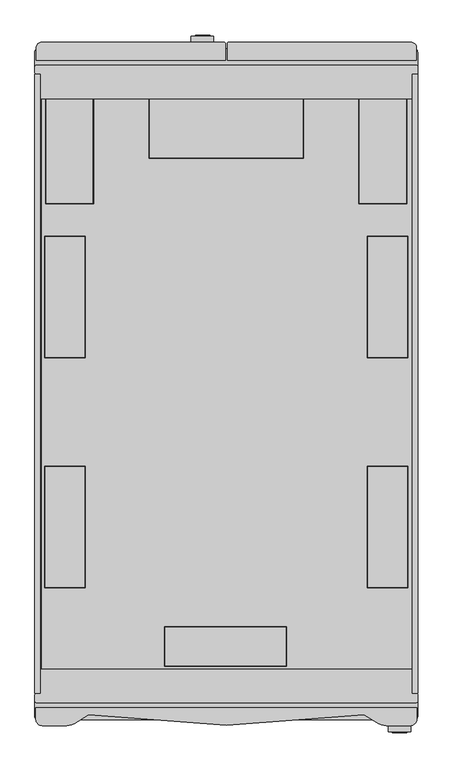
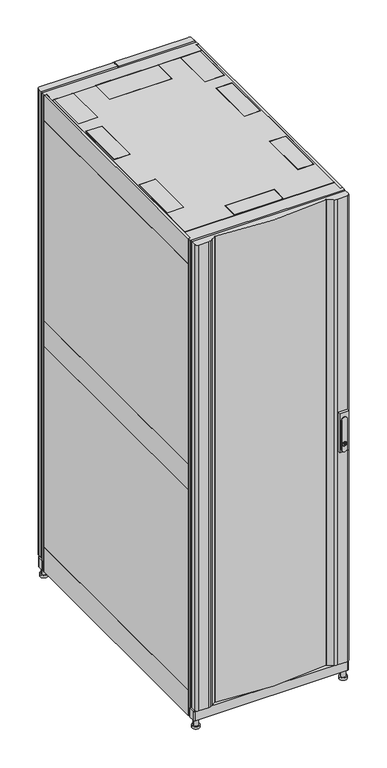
"""IFC4 building model written with IfcOpenShell, lengths in millimetres: proxy geometry, Symmetra_PX_Battery_96_100_160kW_Schneider_Electric_BIM_Model : SYCFXR9-9 - Symmetra PX Battery frame with 9 Battery Modules."""

from ifc_helpers import new_model, si_unit, point, frame, frame_2d, origin, place, context, project, spatial, polyline, circle_curve, trimmed, segment, composite_curve, outline, extrude, source, transform, mapped, element, save
from ifc_brep_helpers import plane_surface, cylinder_surface, revolved_surface, advanced_brep


def electrical_equipment_d7194751(model_context):
    return source(origin(), model_context, "Body", "SolidModel", [
        extrude(outline(composite_curve([segment(trimmed(circle_curve(frame_2d((965.0100104, -37.0132287)), 11.2467677), [point((965.0100104, -48.2599963))], [point((965.0100104, -25.766461))], False, "CARTESIAN"), True, "CONTINUOUS"), segment(polyline([(965.0100104, -25.766461), (1085.0100104, -25.766461)]), True, "CONTINUOUS"), segment(trimmed(circle_curve(frame_2d((1085.0100104, -37.0132287)), 11.2467677), [point((1085.0100104, -25.766461))], [point((1085.0100104, -48.2599963))], False, "CARTESIAN"), True, "CONTINUOUS"), segment(polyline([(1085.0100104, -48.2599963), (965.0100104, -48.2599963)]), True, "CONTINUOUS")], self_intersect=False), holes=[composite_curve([segment(trimmed(circle_curve(frame_2d((986.2304594, -36.9917243)), 8.4681222), [point((989.2723415, -44.8946381))], [point((989.2723415, -29.0888105))], True, "CARTESIAN"), True, "CONTINUOUS"), segment(trimmed(circle_curve(frame_2d((986.2304594, -36.9917243)), 8.4681222), [point((989.2723415, -29.0888105))], [point((983.1885772, -29.0888105))], True, "CARTESIAN"), True, "CONTINUOUS"), segment(trimmed(circle_curve(frame_2d((986.2304594, -36.9917243)), 8.4681222), [point((983.1885772, -29.0888105))], [point((983.1885772, -44.8946381))], True, "CARTESIAN"), True, "CONTINUOUS"), segment(trimmed(circle_curve(frame_2d((986.2304594, -36.9917243)), 8.4681222), [point((983.1885772, -44.8946381))], [point((989.2723415, -44.8946381))], True, "CARTESIAN"), True, "CONTINUOUS")], self_intersect=False)]), frame((0.0, 544.5, 0.0), z_axis=(0.0, 1.0, 0.0), x_axis=(0.0, 0.0, 1.0)), (0.0, 0.0, 1.0), 2.0),
        extrude(outline(composite_curve([segment(polyline([(988.2945248, -44.8946381), (984.166394, -44.8946381)]), True, "CONTINUOUS"), segment(trimmed(circle_curve(frame_2d((986.2304594, -36.9917243)), 8.1680116), [point((984.166394, -44.8946381))], [point((984.166394, -29.0888105))], False, "CARTESIAN"), True, "CONTINUOUS"), segment(polyline([(984.166394, -29.0888105), (988.2945248, -29.0888105)]), True, "CONTINUOUS"), segment(trimmed(circle_curve(frame_2d((986.2304594, -36.9917243)), 8.1680116), [point((988.2945248, -29.0888105))], [point((988.2945248, -44.8946381))], False, "CARTESIAN"), True, "CONTINUOUS")], self_intersect=False), holes=[polyline([(981.6937867, -36.9917243), (993.3981021, -36.9917243), (993.3981021, -34.5908391), (981.6937867, -34.5908391), (981.6937867, -36.9917243)])]), frame((0.0, 544.5, 0.0), z_axis=(0.0, 1.0, 0.0), x_axis=(0.0, 0.0, 1.0)), (0.0, 0.0, 1.0), 2.0),
        extrude(outline(polyline([(-36.6917243, 546.5), (-34.8908391, 546.5), (-34.8908391, 544.5), (-36.6917243, 544.5), (-36.6917243, 546.5)])), frame((0.0, 0.0, 981.9937867), z_axis=(0.0, 0.0, 1.0), x_axis=(1.0, 0.0, 0.0)), (0.0, 0.0, 1.0), 11.1043154),
        extrude(outline(polyline([(-54.7899944, 544.5), (-20.0, 544.5), (-20.0, 535.0), (-54.7899944, 535.0), (-54.7899944, 544.5)])), frame((0.0, 0.0, 955.0100058), z_axis=(0.0, 0.0, 1.0), x_axis=(1.0, 0.0, 0.0)), (0.0, 0.0, 1.0), 159.9999908),
        extrude(outline(polyline([(292.0, -484.3030002), (292.0, 484.7389449), (300.0, 484.7389449), (300.0, -484.3030002), (292.0, -484.3030002)])), frame((0.0, 0.0, 1888.946775), z_axis=(0.0, 0.0, 1.0), x_axis=(1.0, 0.0, 0.0)), (0.0, 0.0, 1.0), 101.9999981),
        extrude(outline(polyline([(292.0, -483.7220002), (292.0, 483.8199605), (300.0, 483.8199605), (300.0, -483.7220002), (292.0, -483.7220002)])), frame((0.0, 0.0, 1065.7405589), z_axis=(0.0, 0.0, 1.0), x_axis=(1.0, 0.0, 0.0)), (0.0, 0.0, 1.0), 822.214216),
        extrude(outline(polyline([(292.0, -484.3030002), (292.0, 484.7389449), (300.0, 484.7389449), (300.0, -484.3030002), (292.0, -484.3030002)])), frame((0.0, 0.0, 962.4467451), z_axis=(0.0, 0.0, 1.0), x_axis=(1.0, 0.0, 0.0)), (0.0, 0.0, 1.0), 102.0000055),
        extrude(outline(polyline([(292.0, -483.7220002), (292.0, 483.8199605), (300.0, 483.8199605), (300.0, -483.7220002), (292.0, -483.7220002)])), frame((0.0, 0.0, 139.2405663), z_axis=(0.0, 0.0, 1.0), x_axis=(1.0, 0.0, 0.0)), (0.0, 0.0, 1.0), 822.2141825),
        extrude(outline(polyline([(292.0, -484.3030002), (292.0, 484.7389449), (300.0, 484.7389449), (300.0, -484.3030002), (292.0, -484.3030002)])), frame((0.0, 0.0, 35.9467301), z_axis=(0.0, 0.0, 1.0), x_axis=(1.0, 0.0, 0.0)), (0.0, 0.0, 1.0), 101.9999981),
        extrude(outline(composite_curve([segment(trimmed(circle_curve(frame_2d((965.0100104, 272.0137961)), 11.2467677), [point((965.0100104, 260.7670285))], [point((965.0100104, 283.2605638))], False, "CARTESIAN"), True, "CONTINUOUS"), segment(polyline([(965.0100104, 283.2605638), (1085.0100104, 283.2605638)]), True, "CONTINUOUS"), segment(trimmed(circle_curve(frame_2d((1085.0100104, 272.0137961)), 11.2467677), [point((1085.0100104, 283.2605638))], [point((1085.0100104, 260.7670285))], False, "CARTESIAN"), True, "CONTINUOUS"), segment(polyline([(1085.0100104, 260.7670285), (965.0100104, 260.7670285)]), True, "CONTINUOUS")], self_intersect=False), holes=[composite_curve([segment(trimmed(circle_curve(frame_2d((986.2304594, 272.0353005)), 8.4681222), [point((989.2723415, 264.1323867))], [point((989.2723415, 279.9382143))], True, "CARTESIAN"), True, "CONTINUOUS"), segment(trimmed(circle_curve(frame_2d((986.2304594, 272.0353005)), 8.4681222), [point((989.2723415, 279.9382143))], [point((983.1885772, 279.9382143))], True, "CARTESIAN"), True, "CONTINUOUS"), segment(trimmed(circle_curve(frame_2d((986.2304594, 272.0353005)), 8.4681222), [point((983.1885772, 279.9382143))], [point((983.1885772, 264.1323867))], True, "CARTESIAN"), True, "CONTINUOUS"), segment(trimmed(circle_curve(frame_2d((986.2304594, 272.0353005)), 8.4681222), [point((983.1885772, 264.1323867))], [point((989.2723415, 264.1323867))], True, "CARTESIAN"), True, "CONTINUOUS")], self_intersect=False)]), frame((0.0, -546.5, 0.0), z_axis=(0.0, 1.0, 0.0), x_axis=(0.0, 0.0, 1.0)), (0.0, 0.0, 1.0), 2.0),
        extrude(outline(composite_curve([segment(polyline([(988.2945248, 264.1323867), (984.166394, 264.1323867)]), True, "CONTINUOUS"), segment(trimmed(circle_curve(frame_2d((986.2304594, 272.0353005)), 8.1680116), [point((984.166394, 264.1323867))], [point((984.166394, 279.9382143))], False, "CARTESIAN"), True, "CONTINUOUS"), segment(polyline([(984.166394, 279.9382143), (988.2945248, 279.9382143)]), True, "CONTINUOUS"), segment(trimmed(circle_curve(frame_2d((986.2304594, 272.0353005)), 8.1680116), [point((988.2945248, 279.9382143))], [point((988.2945248, 264.1323867))], False, "CARTESIAN"), True, "CONTINUOUS")], self_intersect=False), holes=[polyline([(981.6937867, 272.0353005), (993.3981021, 272.0353005), (993.3981021, 274.4361857), (981.6937867, 274.4361857), (981.6937867, 272.0353005)])]), frame((0.0, -546.5, 0.0), z_axis=(0.0, 1.0, 0.0), x_axis=(0.0, 0.0, 1.0)), (0.0, 0.0, 1.0), 2.0),
        extrude(outline(polyline([(274.1361857, -546.5), (272.3353005, -546.5), (272.3353005, -544.5), (274.1361857, -544.5), (274.1361857, -546.5)])), frame((0.0, 0.0, 981.9937867), z_axis=(0.0, 0.0, 1.0), x_axis=(1.0, 0.0, 0.0)), (0.0, 0.0, 1.0), 11.1043154),
        extrude(outline(polyline([(289.0270248, -544.5), (254.2370304, -544.5), (254.2370304, -535.0), (289.0270248, -535.0), (289.0270248, -544.5)])), frame((0.0, 0.0, 955.0100058), z_axis=(0.0, 0.0, 1.0), x_axis=(1.0, 0.0, 0.0)), (0.0, 0.0, 1.0), 159.9999908),
        extrude(outline(polyline([(-292.0, 484.7389449), (-292.0, -484.3030002), (-300.0, -484.3030002), (-300.0, 484.7389449), (-292.0, 484.7389449)])), frame((0.0, 0.0, 1888.946775), z_axis=(0.0, 0.0, 1.0), x_axis=(1.0, 0.0, 0.0)), (0.0, 0.0, 1.0), 101.9999981),
        extrude(outline(polyline([(-292.0, 483.8199605), (-292.0, -483.7220002), (-300.0, -483.7220002), (-300.0, 483.8199605), (-292.0, 483.8199605)])), frame((0.0, 0.0, 1065.7405589), z_axis=(0.0, 0.0, 1.0), x_axis=(1.0, 0.0, 0.0)), (0.0, 0.0, 1.0), 822.214216),
        extrude(outline(polyline([(-292.0, 484.7389449), (-292.0, -484.3030002), (-300.0, -484.3030002), (-300.0, 484.7389449), (-292.0, 484.7389449)])), frame((0.0, 0.0, 962.4467451), z_axis=(0.0, 0.0, 1.0), x_axis=(1.0, 0.0, 0.0)), (0.0, 0.0, 1.0), 102.0000055),
        extrude(outline(polyline([(-292.0, 483.8199605), (-292.0, -483.7220002), (-300.0, -483.7220002), (-300.0, 483.8199605), (-292.0, 483.8199605)])), frame((0.0, 0.0, 139.2405663), z_axis=(0.0, 0.0, 1.0), x_axis=(1.0, 0.0, 0.0)), (0.0, 0.0, 1.0), 822.2141825),
        extrude(outline(polyline([(-292.0, 484.7389449), (-292.0, -484.3030002), (-300.0, -484.3030002), (-300.0, 484.7389449), (-292.0, 484.7389449)])), frame((0.0, 0.0, 35.9467301), z_axis=(0.0, 0.0, 1.0), x_axis=(1.0, 0.0, 0.0)), (0.0, 0.0, 1.0), 101.9999981),
        extrude(outline(composite_curve([segment(polyline([(295.0, -525.858838), (-295.0, -525.858838)]), True, "CONTINUOUS"), segment(trimmed(circle_curve(frame_2d((-295.0, -520.858838)), 5.0), [point((-295.0, -525.858838))], [point((-300.0, -520.858838))], False, "CARTESIAN"), True, "CONTINUOUS"), segment(polyline([(-300.0, -520.858838), (-300.0, -497.6556519), (300.0, -497.6556519), (300.0, -520.858838)]), True, "CONTINUOUS"), segment(trimmed(circle_curve(frame_2d((295.0, -520.858838)), 5.0), [point((300.0, -520.858838))], [point((295.0, -525.858838))], False, "CARTESIAN"), True, "CONTINUOUS")], self_intersect=False)), frame((0.0, 0.0, 36.3), z_axis=(0.0, 0.0, 1.0), x_axis=(1.0, 0.0, 0.0)), (0.0, 0.0, 1.0), 38.1),
        extrude(outline(composite_curve([segment(trimmed(circle_curve(frame_2d((295.0, 519.921338)), 5.0), [point((295.0, 524.921338))], [point((300.0, 519.921338))], False, "CARTESIAN"), True, "CONTINUOUS"), segment(polyline([(300.0, 519.921338), (300.0, 496.7181519), (-300.0, 496.7181519), (-300.0, 519.921338)]), True, "CONTINUOUS"), segment(trimmed(circle_curve(frame_2d((-295.0, 519.921338)), 5.0), [point((-300.0, 519.921338))], [point((-295.0, 524.921338))], False, "CARTESIAN"), True, "CONTINUOUS"), segment(polyline([(-295.0, 524.921338), (295.0, 524.921338)]), True, "CONTINUOUS")], self_intersect=False)), frame((0.0, 0.0, 36.3), z_axis=(0.0, 0.0, 1.0), x_axis=(1.0, 0.0, 0.0)), (0.0, 0.0, 1.0), 38.1),
        advanced_brep(
        [(295.0884724, 510.7969997, 40.0), (276.9884724, 510.7969997, 40.0), (276.9884724, 510.7969997, 10.0), (295.0884724, 510.7969997, 10.0), (271.9800276, 510.7969997, 10.0), (299.9800276, 510.7969997, 10.0), (271.9800276, 510.7969997, 0.0), (299.9800276, 510.7969997, 0.0)],
        [
            (0, 1, circle_curve(frame((286.0384724, 510.7969997, 40.0), z_axis=(0.0, 0.0, 1.0), x_axis=(-1.0, 0.0, 0.0)), 9.05)),
            (1, 0, circle_curve(frame((286.0384724, 510.7969997, 40.0), z_axis=(0.0, 0.0, 1.0), x_axis=(-1.0, 0.0, 0.0)), 9.05)),
            (1, 2),
            (2, 3, circle_curve(frame((286.0384724, 510.7969997, 10.0), z_axis=(0.0, 0.0, 1.0), x_axis=(-1.0, 0.0, 0.0)), 9.05)),
            (3, 0),
            (3, 2, circle_curve(frame((286.0384724, 510.7969997, 10.0), z_axis=(0.0, 0.0, 1.0), x_axis=(-1.0, 0.0, 0.0)), 9.05)),
            (4, 5, circle_curve(frame((285.9800276, 510.7969997, 10.0), z_axis=(0.0, 0.0, 1.0), x_axis=(1.0, 0.0, 0.0)), 14.0)),
            (5, 4, circle_curve(frame((285.9800276, 510.7969997, 10.0), z_axis=(0.0, 0.0, 1.0), x_axis=(1.0, 0.0, 0.0)), 14.0)),
            (6, 7, circle_curve(frame((285.9800276, 510.7969997, 0.0), z_axis=(0.0, 0.0, -1.0), x_axis=(1.0, 0.0, 0.0)), 14.0)),
            (7, 6, circle_curve(frame((285.9800276, 510.7969997, 0.0), z_axis=(0.0, 0.0, -1.0), x_axis=(1.0, 0.0, 0.0)), 14.0)),
            (4, 6),
            (7, 5),
        ],
        [
            plane_surface(frame((276.9884724, 510.7969997, 40.0), z_axis=(0.0, 0.0, 1.0), x_axis=(0.0, -1.0, 0.0))),
            cylinder_surface(frame((286.0384724, 510.7969997, 10.0), z_axis=(0.0, 0.0, 1.0), x_axis=(-1.0, 0.0, 0.0)), 9.05),
            plane_surface(frame((299.9800276, 510.7969997, 10.0), z_axis=(0.0, 0.0, 1.0), x_axis=(0.0, 1.0, 0.0))),
            plane_surface(frame((299.9800276, 510.7969997, 0.0), z_axis=(0.0, 0.0, -1.0), x_axis=(0.0, -1.0, 0.0))),
            cylinder_surface(frame((285.9800276, 510.7969997, 0.0), z_axis=(0.0, 0.0, 1.0), x_axis=(1.0, 0.0, 0.0)), 14.0),
        ],
        [
            (0, [[1, 2]]),
            (1, [[-2, 3, 4, 5]]),
            (1, [[-1, -5, 6, -3]]),
            (2, [[7, 8], [-4, -6]]),
            (3, [[9, 10]]),
            (4, [[-7, 11, -10, 12]]),
            (4, [[-8, -12, -9, -11]]),
        ],
    ),
        advanced_brep(
        [(295.0884724, -511.9030003, 40.0), (276.9884724, -511.9030003, 40.0), (276.9884724, -511.9030003, 10.0), (295.0884724, -511.9030003, 10.0), (271.9800276, -511.9030003, 10.0), (299.9800276, -511.9030003, 10.0), (271.9800276, -511.9030003, 0.0), (299.9800276, -511.9030003, 0.0)],
        [
            (0, 1, circle_curve(frame((286.0384724, -511.9030003, 40.0), z_axis=(0.0, 0.0, 1.0), x_axis=(-1.0, 0.0, 0.0)), 9.05)),
            (1, 0, circle_curve(frame((286.0384724, -511.9030003, 40.0), z_axis=(0.0, 0.0, 1.0), x_axis=(-1.0, 0.0, 0.0)), 9.05)),
            (1, 2),
            (2, 3, circle_curve(frame((286.0384724, -511.9030003, 10.0), z_axis=(0.0, 0.0, 1.0), x_axis=(-1.0, 0.0, 0.0)), 9.05)),
            (3, 0),
            (3, 2, circle_curve(frame((286.0384724, -511.9030003, 10.0), z_axis=(0.0, 0.0, 1.0), x_axis=(-1.0, 0.0, 0.0)), 9.05)),
            (4, 5, circle_curve(frame((285.9800276, -511.9030003, 10.0), z_axis=(0.0, 0.0, 1.0), x_axis=(1.0, 0.0, 0.0)), 14.0)),
            (5, 4, circle_curve(frame((285.9800276, -511.9030003, 10.0), z_axis=(0.0, 0.0, 1.0), x_axis=(1.0, 0.0, 0.0)), 14.0)),
            (6, 7, circle_curve(frame((285.9800276, -511.9030003, 0.0), z_axis=(0.0, 0.0, -1.0), x_axis=(1.0, 0.0, 0.0)), 14.0)),
            (7, 6, circle_curve(frame((285.9800276, -511.9030003, 0.0), z_axis=(0.0, 0.0, -1.0), x_axis=(1.0, 0.0, 0.0)), 14.0)),
            (4, 6),
            (7, 5),
        ],
        [
            plane_surface(frame((276.9884724, 510.7969997, 40.0), z_axis=(0.0, 0.0, 1.0), x_axis=(0.0, -1.0, 0.0))),
            cylinder_surface(frame((286.0384724, -511.9030003, 0.0), z_axis=(0.0, 0.0, 1.0), x_axis=(-1.0, 0.0, 0.0)), 9.05),
            plane_surface(frame((299.9800276, 510.7969997, 10.0), z_axis=(0.0, 0.0, 1.0), x_axis=(0.0, 1.0, 0.0))),
            plane_surface(frame((299.9800276, 510.7969997, 0.0), z_axis=(0.0, 0.0, -1.0), x_axis=(0.0, -1.0, 0.0))),
            cylinder_surface(frame((285.9800276, -511.9030003, 0.0), z_axis=(0.0, 0.0, 1.0), x_axis=(1.0, 0.0, 0.0)), 14.0),
        ],
        [
            (0, [[1, 2]]),
            (1, [[-2, 3, 4, 5]]),
            (1, [[-1, -5, 6, -3]]),
            (2, [[7, 8], [-4, -6]]),
            (3, [[9, 10]]),
            (4, [[-7, 11, -10, 12]]),
            (4, [[-8, -12, -9, -11]]),
        ],
    ),
        extrude(outline(polyline([(-289.9249756, -416.0459999), (-289.9249756, 414.9399709), (-146.8398751, 414.9399709), (-146.8398751, 444.9399709), (148.1601249, 444.9399709), (148.1601249, 414.9399709), (290.3410287, 414.9399709), (290.3410287, -416.0459999), (147.8889915, -416.0459999), (147.8889915, -446.0459999), (-147.1110085, -446.0459999), (-147.1110085, -416.0459999), (-289.9249756, -416.0459999)]), holes=[polyline([(-232.0000082, 386.4300102), (-232.0000082, 246.4299947), (-15.0000006, 246.4299947), (-15.0000006, 386.4300102), (-232.0000082, 386.4300102)])]), frame((0.0, 0.0, 40.0), z_axis=(0.0, 0.0, 1.0), x_axis=(1.0, 0.0, 0.0)), (0.0, 0.0, 1.0), 5.0),
        extrude(outline(polyline([(-231.0000082, 247.4299947), (-231.0000082, 385.4300102), (-16.0000006, 385.4300102), (-16.0000006, 247.4299947), (-231.0000082, 247.4299947)])), frame((0.0, 0.0, 40.0), z_axis=(0.0, 0.0, 1.0), x_axis=(1.0, 0.0, 0.0)), (0.0, 0.0, 1.0), 5.0),
        advanced_brep(
        [(-299.7259724, -511.9030003, 10.0), (-271.7259724, -511.9030003, 10.0), (-276.6759724, -511.9030003, 10.0), (-294.7759724, -511.9030003, 10.0), (-299.7259724, -511.9030003, 0.0), (-271.7259724, -511.9030003, 0.0), (-294.7759724, -511.9030003, 40.0), (-276.6759724, -511.9030003, 40.0)],
        [
            (0, 1, circle_curve(frame((-285.7259724, -511.9030003, 10.0), z_axis=(0.0, 0.0, 1.0), x_axis=(1.0, 0.0, 0.0)), 14.0)),
            (1, 0, circle_curve(frame((-285.7259724, -511.9030003, 10.0), z_axis=(0.0, 0.0, 1.0), x_axis=(1.0, 0.0, 0.0)), 14.0)),
            (2, 3, circle_curve(frame((-285.7259724, -511.9030003, 10.0), z_axis=(0.0, 0.0, -1.0), x_axis=(1.0, 0.0, 0.0)), 9.05)),
            (3, 2, circle_curve(frame((-285.7259724, -511.9030003, 10.0), z_axis=(0.0, 0.0, -1.0), x_axis=(1.0, 0.0, 0.0)), 9.05)),
            (4, 5, circle_curve(frame((-285.7259724, -511.9030003, 0.0), z_axis=(0.0, 0.0, -1.0), x_axis=(1.0, 0.0, 0.0)), 14.0)),
            (5, 4, circle_curve(frame((-285.7259724, -511.9030003, 0.0), z_axis=(0.0, 0.0, -1.0), x_axis=(1.0, 0.0, 0.0)), 14.0)),
            (0, 4),
            (5, 1),
            (6, 7, circle_curve(frame((-285.7259724, -511.9030003, 40.0), z_axis=(0.0, 0.0, 1.0), x_axis=(1.0, 0.0, 0.0)), 9.05)),
            (7, 6, circle_curve(frame((-285.7259724, -511.9030003, 40.0), z_axis=(0.0, 0.0, 1.0), x_axis=(1.0, 0.0, 0.0)), 9.05)),
            (6, 3),
            (2, 7),
        ],
        [
            plane_surface(frame((-271.7259724, -511.9030003, 10.0), z_axis=(0.0, 0.0, 1.0), x_axis=(0.0, 1.0, 0.0))),
            plane_surface(frame((-271.7259724, -511.9030003, 0.0), z_axis=(0.0, 0.0, -1.0), x_axis=(0.0, -1.0, 0.0))),
            cylinder_surface(frame((-285.7259724, -511.9030003, 0.0), z_axis=(0.0, 0.0, 1.0), x_axis=(1.0, 0.0, 0.0)), 14.0),
            plane_surface(frame((-276.6759724, 510.7969997, 40.0), z_axis=(0.0, 0.0, 1.0), x_axis=(0.0, 1.0, 0.0))),
            cylinder_surface(frame((-285.7259724, -511.9030003, 0.0), z_axis=(0.0, 0.0, 1.0), x_axis=(1.0, 0.0, 0.0)), 9.05),
        ],
        [
            (0, [[1, 2], [3, 4]]),
            (1, [[5, 6]]),
            (2, [[-1, 7, -6, 8]]),
            (2, [[-2, -8, -5, -7]]),
            (3, [[9, 10]]),
            (4, [[-9, 11, -3, 12]]),
            (4, [[-10, -12, -4, -11]]),
        ],
    ),
        advanced_brep(
        [(-299.7259724, 510.7969997, 10.0), (-271.7259724, 510.7969997, 10.0), (-276.6759724, 510.7969997, 10.0), (-294.7759724, 510.7969997, 10.0), (-299.7259724, 510.7969997, 0.0), (-271.7259724, 510.7969997, 0.0), (-294.7759724, 510.7969997, 40.0), (-276.6759724, 510.7969997, 40.0)],
        [
            (0, 1, circle_curve(frame((-285.7259724, 510.7969997, 10.0), z_axis=(0.0, 0.0, 1.0), x_axis=(1.0, 0.0, 0.0)), 14.0)),
            (1, 0, circle_curve(frame((-285.7259724, 510.7969997, 10.0), z_axis=(0.0, 0.0, 1.0), x_axis=(1.0, 0.0, 0.0)), 14.0)),
            (2, 3, circle_curve(frame((-285.7259724, 510.7969997, 10.0), z_axis=(0.0, 0.0, -1.0), x_axis=(1.0, 0.0, 0.0)), 9.05)),
            (3, 2, circle_curve(frame((-285.7259724, 510.7969997, 10.0), z_axis=(0.0, 0.0, -1.0), x_axis=(1.0, 0.0, 0.0)), 9.05)),
            (4, 5, circle_curve(frame((-285.7259724, 510.7969997, 0.0), z_axis=(0.0, 0.0, -1.0), x_axis=(1.0, 0.0, 0.0)), 14.0)),
            (5, 4, circle_curve(frame((-285.7259724, 510.7969997, 0.0), z_axis=(0.0, 0.0, -1.0), x_axis=(1.0, 0.0, 0.0)), 14.0)),
            (0, 4),
            (5, 1),
            (6, 7, circle_curve(frame((-285.7259724, 510.7969997, 40.0), z_axis=(0.0, 0.0, 1.0), x_axis=(1.0, 0.0, 0.0)), 9.05)),
            (7, 6, circle_curve(frame((-285.7259724, 510.7969997, 40.0), z_axis=(0.0, 0.0, 1.0), x_axis=(1.0, 0.0, 0.0)), 9.05)),
            (6, 3),
            (2, 7),
        ],
        [
            plane_surface(frame((-271.7259724, -511.9030003, 10.0), z_axis=(0.0, 0.0, 1.0), x_axis=(0.0, 1.0, 0.0))),
            plane_surface(frame((-271.7259724, -511.9030003, 0.0), z_axis=(0.0, 0.0, -1.0), x_axis=(0.0, -1.0, 0.0))),
            cylinder_surface(frame((-285.7259724, 510.7969997, 0.0), z_axis=(0.0, 0.0, 1.0), x_axis=(1.0, 0.0, 0.0)), 14.0),
            plane_surface(frame((-276.6759724, 510.7969997, 40.0), z_axis=(0.0, 0.0, 1.0), x_axis=(0.0, 1.0, 0.0))),
            cylinder_surface(frame((-285.7259724, 510.7969997, 10.0), z_axis=(0.0, 0.0, 1.0), x_axis=(1.0, 0.0, 0.0)), 9.05),
        ],
        [
            (0, [[1, 2], [3, 4]]),
            (1, [[5, 6]]),
            (2, [[-1, 7, -6, 8]]),
            (2, [[-2, -8, -5, -7]]),
            (3, [[9, 10]]),
            (4, [[-9, 11, -3, 12]]),
            (4, [[-10, -12, -4, -11]]),
        ],
    ),
        extrude(outline(composite_curve([segment(trimmed(circle_curve(frame_2d((-460.0797469, 31.0)), 31.0), [point((-491.0797469, 31.0))], [point((-429.0797469, 31.0))], False, "CARTESIAN"), True, "CONTINUOUS"), segment(trimmed(circle_curve(frame_2d((-460.0797469, 31.0)), 31.0), [point((-429.0797469, 31.0))], [point((-491.0797469, 31.0))], False, "CARTESIAN"), True, "CONTINUOUS")], self_intersect=False)), frame((178.0, 0.0, 0.0), z_axis=(1.0, 0.0, 0.0), x_axis=(0.0, 1.0, 0.0)), (0.0, 0.0, 1.0), 47.0),
        extrude(outline(composite_curve([segment(trimmed(circle_curve(frame_2d((456.1065435, 31.0)), 31.0), [point((425.1065435, 31.0))], [point((487.1065435, 31.0))], False, "CARTESIAN"), True, "CONTINUOUS"), segment(trimmed(circle_curve(frame_2d((456.1065435, 31.0)), 31.0), [point((487.1065435, 31.0))], [point((425.1065435, 31.0))], False, "CARTESIAN"), True, "CONTINUOUS")], self_intersect=False)), frame((178.0, 0.0, 0.0), z_axis=(1.0, 0.0, 0.0), x_axis=(0.0, 1.0, 0.0)), (0.0, 0.0, 1.0), 47.0),
        extrude(outline(composite_curve([segment(trimmed(circle_curve(frame_2d((297.7190436, 496.7139543)), 2.4079842), [point((297.7190437, 499.1219386))], [point((300.1270278, 496.7139541))], False, "CARTESIAN"), True, "CONTINUOUS"), segment(polyline([(300.1270278, 496.7139541), (300.1270278, 486.9109379)]), True, "CONTINUOUS"), segment(trimmed(circle_curve(frame_2d((297.7190273, 486.9109379)), 2.4080005), [point((300.1270278, 486.9109379))], [point((297.7190273, 484.5029374))], False, "CARTESIAN"), True, "CONTINUOUS"), segment(polyline([(297.7190273, 484.5029374), (290.8795297, 484.5029374), (290.8795297, 446.5903878), (-290.6255007, 446.5903878), (-290.6255007, 484.5029365), (-297.4649733, 484.5029365)]), True, "CONTINUOUS"), segment(trimmed(circle_curve(frame_2d((-297.4649742, 486.9109387)), 2.4080021), [point((-297.4649733, 484.5029365))], [point((-299.8729763, 486.9109382))], False, "CARTESIAN"), True, "CONTINUOUS"), segment(polyline([(-299.8729763, 486.9109382), (-299.8729763, 496.7139374)]), True, "CONTINUOUS"), segment(trimmed(circle_curve(frame_2d((-297.4649722, 496.7139344)), 2.4080041), [point((-299.8729763, 496.7139374))], [point((-297.4649711, 499.1219386))], False, "CARTESIAN"), True, "CONTINUOUS"), segment(polyline([(-297.4649711, 499.1219386), (297.7190437, 499.1219386)]), True, "CONTINUOUS")], self_intersect=False)), frame((0.0, 0.0, 36.3), z_axis=(0.0, 0.0, 1.0), x_axis=(1.0, 0.0, 0.0)), (0.0, 0.0, 1.0), 1954.7),
        extrude(outline(composite_curve([segment(polyline([(297.7190437, -499.122001), (-297.4649711, -499.122001)]), True, "CONTINUOUS"), segment(trimmed(circle_curve(frame_2d((-297.4649722, -496.7139968)), 2.4080041), [point((-297.4649711, -499.122001))], [point((-299.8729763, -496.7139998))], False, "CARTESIAN"), True, "CONTINUOUS"), segment(polyline([(-299.8729763, -496.7139998), (-299.8729763, -486.9110006)]), True, "CONTINUOUS"), segment(trimmed(circle_curve(frame_2d((-297.4649742, -486.9110011)), 2.4080021), [point((-299.8729763, -486.9110006))], [point((-297.4649733, -484.5029989))], False, "CARTESIAN"), True, "CONTINUOUS"), segment(polyline([(-297.4649733, -484.5029989), (-290.6255007, -484.5029989), (-290.6255007, -446.5904502), (290.8795297, -446.5904502), (290.8795297, -484.5029998), (297.7190273, -484.5029998)]), True, "CONTINUOUS"), segment(trimmed(circle_curve(frame_2d((297.7190273, -486.9110003)), 2.4080005), [point((297.7190273, -484.5029998))], [point((300.1270278, -486.9110003))], False, "CARTESIAN"), True, "CONTINUOUS"), segment(polyline([(300.1270278, -486.9110003), (300.1270278, -496.7140165)]), True, "CONTINUOUS"), segment(trimmed(circle_curve(frame_2d((297.7190436, -496.7140167)), 2.4079842), [point((300.1270278, -496.7140165))], [point((297.7190437, -499.122001))], False, "CARTESIAN"), True, "CONTINUOUS")], self_intersect=False)), frame((0.0, 0.0, 36.3), z_axis=(0.0, 0.0, 1.0), x_axis=(1.0, 0.0, 0.0)), (0.0, 0.0, 1.0), 1954.7),
        extrude(outline(polyline([(290.5825286, 449.599961), (290.5825286, -446.3030015), (-288.9999642, -446.3030015), (-288.9999642, 449.599961), (290.5825286, 449.599961)]), holes=[polyline([(-221.309439, -128.6171179), (-284.5751363, -128.6171179), (-284.5751363, -319.0992143), (-221.309439, -319.0992143), (-221.309439, -128.6171179)]), polyline([(-221.309439, 231.2693861), (-284.5751363, 231.2693861), (-284.5751363, 40.7872897), (-221.309439, 40.7872897), (-221.309439, 231.2693861)]), polyline([(-208.0843772, 282.1281315), (-208.0843772, 446.5903878), (-283.340644, 446.5903878), (-283.340644, 282.1281315), (-208.0843772, 282.1281315)]), polyline([(221.309439, -128.6171179), (221.309439, -319.0992143), (284.5751363, -319.0992143), (284.5751363, -128.6171179), (221.309439, -128.6171179)]), polyline([(221.309439, 231.2693861), (221.309439, 40.7872897), (284.5751363, 40.7872897), (284.5751363, 231.2693861), (221.309439, 231.2693861)]), polyline([(208.0843772, 282.1281315), (283.340644, 282.1281315), (283.340644, 446.5903878), (208.0843772, 446.5903878), (208.0843772, 282.1281315)]), polyline([(94.4871545, -442.2775013), (94.4871545, -380.492133), (-96.6004832, -380.492133), (-96.6004832, -442.2775013), (94.4871545, -442.2775013)]), polyline([(-120.962168, 353.1054323), (120.962168, 353.1054323), (120.962168, 447.5903878), (-120.962168, 447.5903878), (-120.962168, 353.1054323)])]), frame((0.0, 0.0, 1990.0), z_axis=(0.0, 0.0, 1.0), x_axis=(1.0, 0.0, 0.0)), (0.0, 0.0, 1.0), 1.0),
        extrude(outline(polyline([(-222.309439, -129.6171179), (-222.309439, -318.0992143), (-283.5751363, -318.0992143), (-283.5751363, -129.6171179), (-222.309439, -129.6171179)])), frame((0.0, 0.0, 1990.0), z_axis=(0.0, 0.0, 1.0), x_axis=(1.0, 0.0, 0.0)), (0.0, 0.0, 1.0), 1.0),
        extrude(outline(polyline([(-222.309439, 230.2693861), (-222.309439, 41.7872897), (-283.5751363, 41.7872897), (-283.5751363, 230.2693861), (-222.309439, 230.2693861)])), frame((0.0, 0.0, 1990.0), z_axis=(0.0, 0.0, 1.0), x_axis=(1.0, 0.0, 0.0)), (0.0, 0.0, 1.0), 1.0),
        extrude(outline(polyline([(-282.340644, 283.1281315), (-282.340644, 445.5903878), (-209.0843772, 445.5903878), (-209.0843772, 283.1281315), (-282.340644, 283.1281315)])), frame((0.0, 0.0, 1990.0), z_axis=(0.0, 0.0, 1.0), x_axis=(1.0, 0.0, 0.0)), (0.0, 0.0, 1.0), 1.0),
        extrude(outline(polyline([(222.309439, -129.6171179), (283.5751363, -129.6171179), (283.5751363, -318.0992143), (222.309439, -318.0992143), (222.309439, -129.6171179)])), frame((0.0, 0.0, 1990.0), z_axis=(0.0, 0.0, 1.0), x_axis=(1.0, 0.0, 0.0)), (0.0, 0.0, 1.0), 1.0),
        extrude(outline(polyline([(222.309439, 230.2693861), (283.5751363, 230.2693861), (283.5751363, 41.7872897), (222.309439, 41.7872897), (222.309439, 230.2693861)])), frame((0.0, 0.0, 1990.0), z_axis=(0.0, 0.0, 1.0), x_axis=(1.0, 0.0, 0.0)), (0.0, 0.0, 1.0), 1.0),
        extrude(outline(polyline([(282.340644, 283.1281315), (209.0843772, 283.1281315), (209.0843772, 445.5903878), (282.340644, 445.5903878), (282.340644, 283.1281315)])), frame((0.0, 0.0, 1990.0), z_axis=(0.0, 0.0, 1.0), x_axis=(1.0, 0.0, 0.0)), (0.0, 0.0, 1.0), 1.0),
        extrude(outline(polyline([(-95.6004832, -441.2775013), (-95.6004832, -381.492133), (93.4871545, -381.492133), (93.4871545, -441.2775013), (-95.6004832, -441.2775013)])), frame((0.0, 0.0, 1990.0), z_axis=(0.0, 0.0, 1.0), x_axis=(1.0, 0.0, 0.0)), (0.0, 0.0, 1.0), 1.0),
        extrude(outline(polyline([(119.962168, 354.1054323), (-119.962168, 354.1054323), (-119.962168, 446.5903878), (119.962168, 446.5903878), (119.962168, 354.1054323)])), frame((0.0, 0.0, 1990.0), z_axis=(0.0, 0.0, 1.0), x_axis=(1.0, 0.0, 0.0)), (0.0, 0.0, 1.0), 1.0),
        advanced_brep(
        [(298.6270294, -506.9500011, 1991.0), (-298.3669519, -506.9500011, 1991.0), (-298.3669519, -525.6943843, 1991.0), (-288.7729883, -535.0, 1991.0), (-250.3829777, -535.0, 1991.0), (-242.0373277, -533.6568848, 1991.0), (-232.149142, -528.5877079, 1991.0), (-217.3214294, -518.6957693, 1991.0), (-215.6132293, -518.342797, 1991.0), (215.8672846, -518.342797, 1991.0), (217.5754847, -518.6957693, 1991.0), (239.3544203, -532.4946008, 1991.0), (250.6364957, -535.0000003, 1991.0), (289.0270286, -535.0000003, 1991.0), (298.6270294, -525.4000001, 1991.0), (298.6270294, -506.9500011, 80.3), (298.6270294, -525.4000001, 80.3), (289.0270286, -535.0000003, 80.3), (250.6364957, -535.0000003, 80.3), (239.3544203, -532.4946008, 80.3), (217.5754845, -518.6957695, 80.3), (215.8672846, -518.342797, 80.3), (-215.6132293, -518.342797, 80.3), (-217.3214294, -518.6957693, 80.3), (-232.149142, -528.5877079, 80.3), (-242.0373277, -533.6568848, 80.3), (-250.3829777, -535.0, 80.3), (-288.7729883, -535.0, 80.3), (-298.3669519, -525.6943843, 80.3), (-298.3669519, -506.9500011, 80.3)],
        [
            (0, 1),
            (1, 2),
            (2, 3, circle_curve(frame((-288.7729883, -525.4015689, 1991.0), z_axis=(0.0, 0.0, 1.0), x_axis=(1.0, 0.0, 0.0)), 9.5984311)),
            (3, 4),
            (4, 5, circle_curve(frame((-250.1008714, -510.1528714, 1991.0), z_axis=(0.0, 0.0, 1.0), x_axis=(1.0, 0.0, 0.0)), 24.84873)),
            (5, 6, circle_curve(frame((-254.6682955, -496.8395194, 1991.0), z_axis=(0.0, 0.0, 1.0), x_axis=(1.0, 0.0, 0.0)), 38.9237684)),
            (6, 7, circle_curve(frame((-51.990788, -782.580443, 1991.0), z_axis=(0.0, 0.0, -1.0), x_axis=(1.0, 0.0, 0.0)), 311.3990078)),
            (7, 8, circle_curve(frame((-215.9926018, -520.8167145, 1991.0), z_axis=(0.0, 0.0, -1.0), x_axis=(1.0, 0.0, 0.0)), 2.5028366)),
            (8, 9, circle_curve(frame((0.1270279, 888.5161436, 1991.0), z_axis=(0.0, 0.0, 1.0), x_axis=(1.0, 0.0, 0.0)), 1423.3045834)),
            (9, 10, circle_curve(frame((216.2852436, -520.6299765, 1991.0), z_axis=(0.0, 0.0, -1.0), x_axis=(1.0, 0.0, 0.0)), 2.3250548)),
            (10, 11, circle_curve(frame((521.6509127, -62.8546774, 1991.0), z_axis=(0.0, 0.0, 1.0), x_axis=(1.0, 0.0, 0.0)), 547.9534354)),
            (11, 12, circle_curve(frame((250.651957, -508.2754956, 1991.0), z_axis=(0.0, 0.0, 1.0), x_axis=(1.0, 0.0, 0.0)), 26.7245092)),
            (12, 13),
            (13, 14, circle_curve(frame((289.0270291, -525.4000001, 1991.0), z_axis=(0.0, 0.0, 1.0), x_axis=(1.0, 0.0, 0.0)), 9.6000003)),
            (14, 0),
            (15, 16),
            (16, 17, circle_curve(frame((289.0270291, -525.4000001, 80.3), z_axis=(0.0, 0.0, -1.0), x_axis=(1.0, 0.0, 0.0)), 9.6000003)),
            (17, 18),
            (18, 19, circle_curve(frame((250.651957, -508.2754956, 80.3), z_axis=(0.0, 0.0, -1.0), x_axis=(1.0, 0.0, 0.0)), 26.7245092)),
            (19, 20, circle_curve(frame((521.6509127, -62.8546774, 80.3), z_axis=(0.0, 0.0, -1.0), x_axis=(1.0, 0.0, 0.0)), 547.9534354)),
            (20, 21, circle_curve(frame((216.2852436, -520.6299765, 80.3), z_axis=(0.0, 0.0, 1.0), x_axis=(1.0, 0.0, 0.0)), 2.3250548)),
            (21, 22, circle_curve(frame((0.1270279, 888.5161436, 80.3), z_axis=(0.0, 0.0, -1.0), x_axis=(1.0, 0.0, 0.0)), 1423.3045834)),
            (22, 23, circle_curve(frame((-215.9926018, -520.8167145, 80.3), z_axis=(0.0, 0.0, 1.0), x_axis=(1.0, 0.0, 0.0)), 2.5028366)),
            (23, 24, circle_curve(frame((-51.990788, -782.580443, 80.3), z_axis=(0.0, 0.0, 1.0), x_axis=(1.0, 0.0, 0.0)), 311.3990078)),
            (24, 25, circle_curve(frame((-254.6682955, -496.8395194, 80.3), z_axis=(0.0, 0.0, -1.0), x_axis=(1.0, 0.0, 0.0)), 38.9237684)),
            (25, 26, circle_curve(frame((-250.1008714, -510.1528714, 80.3), z_axis=(0.0, 0.0, -1.0), x_axis=(1.0, 0.0, 0.0)), 24.84873)),
            (26, 27),
            (27, 28, circle_curve(frame((-288.7729883, -525.4015689, 80.3), z_axis=(0.0, 0.0, -1.0), x_axis=(1.0, 0.0, 0.0)), 9.5984311)),
            (28, 29),
            (29, 15),
            (0, 15),
            (29, 1),
            (28, 2),
            (27, 3),
            (26, 4),
            (25, 5),
            (24, 6),
            (23, 7),
            (22, 8),
            (21, 9),
            (20, 10),
            (19, 11),
            (18, 12),
            (17, 13),
            (16, 14),
        ],
        [
            plane_surface(frame((-298.3669519, -506.9500011, 1991.0), z_axis=(0.0, 0.0, 1.0), x_axis=(-1.0, 0.0, 0.0))),
            plane_surface(frame((-298.3669519, -506.9500011, 80.3), z_axis=(0.0, 0.0, -1.0), x_axis=(1.0, 0.0, 0.0))),
            plane_surface(frame((298.6270294, -506.9500011, 1991.0), z_axis=(0.0, 1.0, 0.0), x_axis=(0.0, 0.0, -1.0))),
            plane_surface(frame((-298.3669519, -506.9500011, 1991.0), z_axis=(-1.0, 0.0, 0.0), x_axis=(0.0, 0.0, -1.0))),
            cylinder_surface(frame((-288.7729883, -525.4015689, 80.3), z_axis=(0.0, 0.0, 1.0), x_axis=(1.0, 0.0, 0.0)), 9.5984311),
            plane_surface(frame((-288.7729883, -535.0, 1991.0), z_axis=(0.0, -1.0, 0.0), x_axis=(0.0, 0.0, -1.0))),
            cylinder_surface(frame((-250.1008714, -510.1528714, 80.3), z_axis=(0.0, 0.0, 1.0), x_axis=(1.0, 0.0, 0.0)), 24.84873),
            cylinder_surface(frame((-254.6682955, -496.8395194, 80.3), z_axis=(0.0, 0.0, 1.0), x_axis=(1.0, 0.0, 0.0)), 38.9237684),
            revolved_surface(polyline([(259.4082198, -782.580443, 80.3), (259.4082198, -782.580443, 1991.0)]), (-51.990788, -782.580443, 80.3), (0.0, 0.0, -1.0)),
            revolved_surface(polyline([(-213.4897652, -520.8167145, 80.3), (-213.4897652, -520.8167145, 1991.0)]), (-215.9926018, -520.8167145, 80.3), (0.0, 0.0, -1.0)),
            cylinder_surface(frame((0.1270279, 888.5161436, 80.3), z_axis=(0.0, 0.0, 1.0), x_axis=(1.0, 0.0, 0.0)), 1423.3045834),
            revolved_surface(polyline([(218.6102984, -520.6299765, 80.3), (218.6102984, -520.6299765, 1991.0)]), (216.2852436, -520.6299765, 80.3), (0.0, 0.0, -1.0)),
            cylinder_surface(frame((521.6509127, -62.8546774, 80.3), z_axis=(0.0, 0.0, 1.0), x_axis=(1.0, 0.0, 0.0)), 547.9534354),
            cylinder_surface(frame((250.651957, -508.2754956, 80.3), z_axis=(0.0, 0.0, 1.0), x_axis=(1.0, 0.0, 0.0)), 26.7245092),
            plane_surface(frame((250.6364957, -535.0000003, 1991.0), z_axis=(0.0, -1.0, 0.0), x_axis=(0.0, 0.0, -1.0))),
            cylinder_surface(frame((289.0270291, -525.4000001, 80.3), z_axis=(0.0, 0.0, 1.0), x_axis=(1.0, 0.0, 0.0)), 9.6000003),
            plane_surface(frame((298.6270294, -525.4000001, 1991.0), z_axis=(1.0, 0.0, 0.0), x_axis=(0.0, 0.0, -1.0))),
        ],
        [
            (0, [[1, 2, 3, 4, 5, 6, 7, 8, 9, 10, 11, 12, 13, 14, 15]]),
            (1, [[16, 17, 18, 19, 20, 21, 22, 23, 24, 25, 26, 27, 28, 29, 30]]),
            (2, [[-1, 31, -30, 32]]),
            (3, [[-2, -32, -29, 33]]),
            (4, [[-3, -33, -28, 34]]),
            (5, [[-4, -34, -27, 35]]),
            (6, [[-5, -35, -26, 36]]),
            (7, [[-6, -36, -25, 37]]),
            (8, [[-7, -37, -24, 38]]),
            (9, [[-8, -38, -23, 39]]),
            (10, [[-9, -39, -22, 40]]),
            (11, [[-10, -40, -21, 41]]),
            (12, [[-11, -41, -20, 42]]),
            (13, [[-12, -42, -19, 43]]),
            (14, [[-13, -43, -18, 44]]),
            (15, [[-14, -44, -17, 45]]),
            (16, [[-15, -45, -16, -31]]),
        ],
    ),
        advanced_brep(
        [(-297.9869723, 506.949935, 1991.0), (-1.486975, 506.949935, 1991.0), (-1.486975, 532.8969991, 1991.0), (-3.5899758, 535.0, 1991.0), (-287.7730012, 535.0, 1991.0), (-288.7729388, 535.0, 1991.0), (-297.9869724, 525.7859664, 1991.0), (-297.9869723, 506.949935, 80.3), (-297.9869723, 525.7859664, 80.3), (-288.7729388, 535.0, 80.3), (-287.7730012, 535.0, 80.3), (-3.5899758, 535.0, 80.3), (-1.486975, 532.8969991, 80.3), (-1.486975, 506.949935, 80.3)],
        [
            (0, 1),
            (1, 2),
            (2, 3, circle_curve(frame((-3.5899758, 532.8969991, 1991.0), z_axis=(0.0, 0.0, 1.0), x_axis=(1.0, 0.0, 0.0)), 2.1030009)),
            (3, 4),
            (4, 5),
            (5, 6, circle_curve(frame((-288.7729388, 525.7859664, 1991.0), z_axis=(0.0, 0.0, 1.0), x_axis=(1.0, 0.0, 0.0)), 9.2140336)),
            (6, 0),
            (7, 8),
            (8, 9, circle_curve(frame((-288.7729388, 525.7859664, 80.3), z_axis=(0.0, 0.0, -1.0), x_axis=(1.0, 0.0, 0.0)), 9.2140336)),
            (9, 10),
            (10, 11),
            (11, 12, circle_curve(frame((-3.5899758, 532.8969991, 80.3), z_axis=(0.0, 0.0, -1.0), x_axis=(1.0, 0.0, 0.0)), 2.1030009)),
            (12, 13),
            (13, 7),
            (0, 7),
            (13, 1),
            (12, 2),
            (11, 3),
            (10, 4),
            (9, 5),
            (8, 6),
        ],
        [
            plane_surface(frame((-298.3669519, -506.9500011, 1991.0), z_axis=(0.0, 0.0, 1.0), x_axis=(-1.0, 0.0, 0.0))),
            plane_surface(frame((-298.3669519, -506.9500011, 80.3), z_axis=(0.0, 0.0, -1.0), x_axis=(1.0, 0.0, 0.0))),
            plane_surface(frame((-297.9869723, 506.949935, 1991.0), z_axis=(0.0, -1.0, 0.0), x_axis=(0.0, 0.0, -1.0))),
            plane_surface(frame((-1.486975, 506.949935, 1991.0), z_axis=(1.0, -7.324265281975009e-11, 0.0), x_axis=(0.0, 0.0, -1.0))),
            cylinder_surface(frame((-3.5899758, 532.8969991, 0.0), z_axis=(0.0, 0.0, 1.0), x_axis=(1.0, 0.0, 0.0)), 2.1030009),
            plane_surface(frame((-3.5899758, 535.0, 1991.0), z_axis=(0.0, 1.0, 0.0), x_axis=(0.0, 0.0, -1.0))),
            plane_surface(frame((-287.7730012, 535.0, 1991.0), z_axis=(1.3306560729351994e-10, 1.0, 0.0), x_axis=(0.0, 0.0, -1.0))),
            cylinder_surface(frame((-288.7729388, 525.7859664, 0.0), z_axis=(0.0, 0.0, 1.0), x_axis=(1.0, 0.0, 0.0)), 9.2140336),
            plane_surface(frame((-297.9869723, 525.7859664, 1991.0), z_axis=(-1.0, 0.0, 0.0), x_axis=(0.0, 0.0, -1.0))),
        ],
        [
            (0, [[1, 2, 3, 4, 5, 6, 7]]),
            (1, [[8, 9, 10, 11, 12, 13, 14]]),
            (2, [[-1, 15, -14, 16]]),
            (3, [[-2, -16, -13, 17]]),
            (4, [[-3, -17, -12, 18]]),
            (5, [[-4, -18, -11, 19]]),
            (6, [[-5, -19, -10, 20]]),
            (7, [[-6, -20, -9, 21]]),
            (8, [[-7, -21, -8, -15]]),
        ],
    ),
        advanced_brep(
        [(298.3397663, 506.949935, 1991.0), (298.3397663, 525.7859664, 1991.0), (289.1257327, 535.0, 1991.0), (288.1257951, 535.0, 1991.0), (3.9427698, 535.0, 1991.0), (1.8397689, 532.8969991, 1991.0), (1.8397689, 506.949935, 1991.0), (298.3397663, 506.949935, 80.3), (1.8397689, 506.949935, 80.3), (1.8397689, 532.8969991, 80.3), (3.9427698, 535.0, 80.3), (288.1257951, 535.0, 80.3), (289.1257327, 535.0, 80.3), (298.3397663, 525.7859664, 80.3)],
        [
            (0, 1),
            (1, 2, circle_curve(frame((289.1257327, 525.7859664, 1991.0), z_axis=(0.0, 0.0, 1.0), x_axis=(1.0, 0.0, 0.0)), 9.2140336)),
            (2, 3),
            (3, 4),
            (4, 5, circle_curve(frame((3.9427698, 532.8969991, 1991.0), z_axis=(0.0, 0.0, 1.0), x_axis=(1.0, 0.0, 0.0)), 2.1030009)),
            (5, 6),
            (6, 0),
            (7, 8),
            (8, 9),
            (9, 10, circle_curve(frame((3.9427698, 532.8969991, 80.3), z_axis=(0.0, 0.0, -1.0), x_axis=(1.0, 0.0, 0.0)), 2.1030009)),
            (10, 11),
            (11, 12),
            (12, 13, circle_curve(frame((289.1257327, 525.7859664, 80.3), z_axis=(0.0, 0.0, -1.0), x_axis=(1.0, 0.0, 0.0)), 9.2140336)),
            (13, 7),
            (0, 7),
            (13, 1),
            (12, 2),
            (11, 3),
            (10, 4),
            (9, 5),
            (8, 6),
        ],
        [
            plane_surface(frame((-298.3669519, -506.9500011, 1991.0), z_axis=(0.0, 0.0, 1.0), x_axis=(-1.0, 0.0, 0.0))),
            plane_surface(frame((-298.3669519, -506.9500011, 80.3), z_axis=(0.0, 0.0, -1.0), x_axis=(1.0, 0.0, 0.0))),
            plane_surface(frame((298.3397663, 506.949935, 1991.0), z_axis=(1.0, 0.0, 0.0), x_axis=(0.0, 0.0, -1.0))),
            cylinder_surface(frame((289.1257327, 525.7859664, 0.0), z_axis=(0.0, 0.0, 1.0), x_axis=(1.0, 0.0, 0.0)), 9.2140336),
            plane_surface(frame((289.1257327, 535.0, 1991.0), z_axis=(-1.33065607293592e-10, 1.0, 0.0), x_axis=(0.0, 0.0, -1.0))),
            plane_surface(frame((288.1257951, 535.0, 1991.0), z_axis=(0.0, 1.0, 0.0), x_axis=(0.0, 0.0, -1.0))),
            cylinder_surface(frame((3.9427698, 532.8969991, 0.0), z_axis=(0.0, 0.0, 1.0), x_axis=(1.0, 0.0, 0.0)), 2.1030009),
            plane_surface(frame((1.8397689, 532.8969991, 1991.0), z_axis=(-1.0, -7.324265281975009e-11, 0.0), x_axis=(0.0, 0.0, -1.0))),
            plane_surface(frame((1.8397689, 506.949935, 1991.0), z_axis=(0.0, -1.0, 0.0), x_axis=(0.0, 0.0, -1.0))),
        ],
        [
            (0, [[1, 2, 3, 4, 5, 6, 7]]),
            (1, [[8, 9, 10, 11, 12, 13, 14]]),
            (2, [[-1, 15, -14, 16]]),
            (3, [[-2, -16, -13, 17]]),
            (4, [[-3, -17, -12, 18]]),
            (5, [[-4, -18, -11, 19]]),
            (6, [[-5, -19, -10, 20]]),
            (7, [[-6, -20, -9, 21]]),
            (8, [[-7, -21, -8, -15]]),
        ],
    ),
        extrude(outline(composite_curve([segment(trimmed(circle_curve(frame_2d((-460.0797469, 31.0)), 31.0), [point((-491.0797469, 31.0))], [point((-429.0797469, 31.0))], False, "CARTESIAN"), True, "CONTINUOUS"), segment(trimmed(circle_curve(frame_2d((-460.0797469, 31.0)), 31.0), [point((-429.0797469, 31.0))], [point((-491.0797469, 31.0))], False, "CARTESIAN"), True, "CONTINUOUS")], self_intersect=False)), frame((-225.0, 0.0, 0.0), z_axis=(1.0, 0.0, 0.0), x_axis=(0.0, 1.0, 0.0)), (0.0, 0.0, 1.0), 47.0),
        extrude(outline(composite_curve([segment(trimmed(circle_curve(frame_2d((456.1065435, 31.0)), 31.0), [point((425.1065435, 31.0))], [point((487.1065435, 31.0))], False, "CARTESIAN"), True, "CONTINUOUS"), segment(trimmed(circle_curve(frame_2d((456.1065435, 31.0)), 31.0), [point((487.1065435, 31.0))], [point((425.1065435, 31.0))], False, "CARTESIAN"), True, "CONTINUOUS")], self_intersect=False)), frame((-225.0, 0.0, 0.0), z_axis=(1.0, 0.0, 0.0), x_axis=(0.0, 1.0, 0.0)), (0.0, 0.0, 1.0), 47.0),
    ])


if __name__ == "__main__":
    model = new_model("IFC4")
    model_context = context("Model", 3, world=origin())
    ifc_project = project(units=[si_unit("LENGTHUNIT", "METRE", prefix="MILLI")], contexts=[model_context])
    site = spatial("IfcSite", under=ifc_project)
    building = spatial("IfcBuilding", under=site)
    placement = place(None, origin())
    electrical_equipment_shape = electrical_equipment_d7194751(model_context)
    element("IfcBuildingElementProxy", 1, Name="Symmetra_PX_Battery_96_100_160kW_Schneider_Electric_BIM_Model : SYCFXR9-9 - Symmetra PX Battery frame with 9 Battery Modules", ObjectType="Symmetra_PX_Battery_96_100_160kW_Schneider_Electric_BIM_Model : SYCFXR9-9 - Symmetra PX Battery frame with 9 Battery Modules", at=placement, inside=building, context=model_context, shape_type="MappedRepresentation", body=[
        mapped(electrical_equipment_shape, transform((0.0, 0.0, 0.0), x_axis=(1.0, 0.0, 0.0), y_axis=(0.0, 1.0, 0.0), z_axis=(0.0, 0.0, 1.0))),
    ])
    save(model, "model.ifc")
